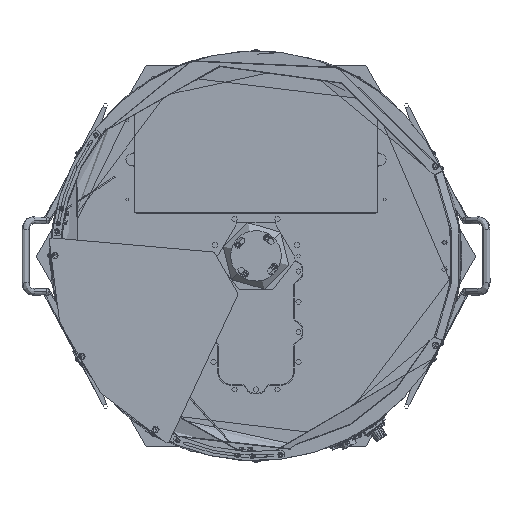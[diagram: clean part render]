
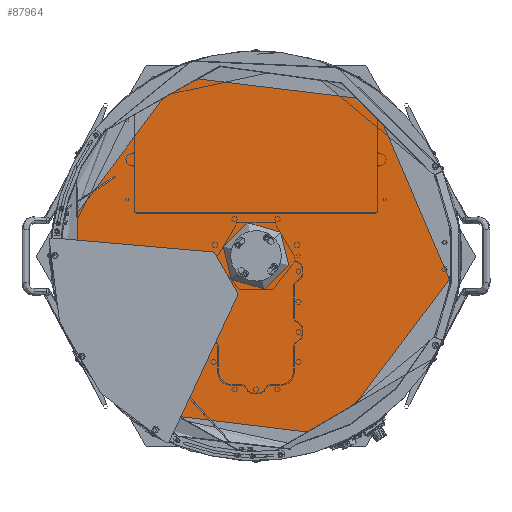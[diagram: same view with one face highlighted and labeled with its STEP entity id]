
A CAD part, top view. The second image highlights one B-rep face of the part: STEP entity #87964.
In plain terms, the highlighted planar face has unit normal (0, 0, 1) as drawn and (0, 0, -1) by its records, which use the part's own axes.
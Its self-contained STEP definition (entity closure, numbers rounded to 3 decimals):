
#2241 = DIRECTION ( 'NONE',  ( 0., 0., 1. ) ) ;
#8683 = EDGE_CURVE ( 'NONE', #47650, #276169, #73018, .T. ) ;
#11901 = CARTESIAN_POINT ( 'NONE',  ( -328., 0., 0. ) ) ;
#21128 = CIRCLE ( 'NONE', #264972, 42.6 ) ;
#22755 = EDGE_CURVE ( 'NONE', #272702, #26678, #21128, .T. ) ;
#26678 = VERTEX_POINT ( 'NONE', #71757 ) ;
#27066 = DIRECTION ( 'NONE',  ( 1., 0., 0. ) ) ;
#40331 = DIRECTION ( 'NONE',  ( 1., 0., 0. ) ) ;
#40373 = CIRCLE ( 'NONE', #181152, 42.6 ) ;
#46185 = FACE_OUTER_BOUND ( 'NONE', #161077, .T. ) ;
#47650 = VERTEX_POINT ( 'NONE', #186359 ) ;
#51130 = EDGE_LOOP ( 'NONE', ( #148057, #225762 ) ) ;
#71212 = DIRECTION ( 'NONE',  ( 1., 0., 0. ) ) ;
#71757 = CARTESIAN_POINT ( 'NONE',  ( -42.6, 0., 0. ) ) ;
#73018 = CIRCLE ( 'NONE', #162034, 328. ) ;
#83435 = CARTESIAN_POINT ( 'NONE',  ( 42.6, 0., 0. ) ) ;
#87964 = ADVANCED_FACE ( 'NONE', ( #250194, #46185 ), #203187, .F. ) ;
#103575 = DIRECTION ( 'NONE',  ( 0., 0., 1. ) ) ;
#128315 = ORIENTED_EDGE ( 'NONE', *, *, #8683, .F. ) ;
#132492 = AXIS2_PLACEMENT_3D ( 'NONE', #182611, #2241, #27066 ) ;
#145417 = DIRECTION ( 'NONE',  ( 0., 0., 1. ) ) ;
#145732 = CIRCLE ( 'NONE', #258380, 328. ) ;
#146358 = ORIENTED_EDGE ( 'NONE', *, *, #183101, .F. ) ;
#148057 = ORIENTED_EDGE ( 'NONE', *, *, #260373, .T. ) ;
#150498 = CARTESIAN_POINT ( 'NONE',  ( 0., 0., 0. ) ) ;
#161077 = EDGE_LOOP ( 'NONE', ( #146358, #128315 ) ) ;
#162034 = AXIS2_PLACEMENT_3D ( 'NONE', #242886, #264880, #40331 ) ;
#181152 = AXIS2_PLACEMENT_3D ( 'NONE', #213010, #145417, #235086 ) ;
#182611 = CARTESIAN_POINT ( 'NONE',  ( 0., 0., 0. ) ) ;
#183101 = EDGE_CURVE ( 'NONE', #276169, #47650, #145732, .T. ) ;
#184203 = CARTESIAN_POINT ( 'NONE',  ( 0., 0., 0. ) ) ;
#186359 = CARTESIAN_POINT ( 'NONE',  ( 328., 0., 0. ) ) ;
#203187 = PLANE ( 'NONE',  #132492 ) ;
#206216 = DIRECTION ( 'NONE',  ( 0., 0., 1. ) ) ;
#213010 = CARTESIAN_POINT ( 'NONE',  ( 0., 0., 0. ) ) ;
#225762 = ORIENTED_EDGE ( 'NONE', *, *, #22755, .T. ) ;
#235086 = DIRECTION ( 'NONE',  ( 1., 0., 0. ) ) ;
#242886 = CARTESIAN_POINT ( 'NONE',  ( 0., 0., 0. ) ) ;
#250194 = FACE_BOUND ( 'NONE', #51130, .T. ) ;
#258380 = AXIS2_PLACEMENT_3D ( 'NONE', #150498, #103575, #287103 ) ;
#260373 = EDGE_CURVE ( 'NONE', #26678, #272702, #40373, .T. ) ;
#264880 = DIRECTION ( 'NONE',  ( 0., 0., 1. ) ) ;
#264972 = AXIS2_PLACEMENT_3D ( 'NONE', #184203, #206216, #71212 ) ;
#272702 = VERTEX_POINT ( 'NONE', #83435 ) ;
#276169 = VERTEX_POINT ( 'NONE', #11901 ) ;
#287103 = DIRECTION ( 'NONE',  ( 1., 0., 0. ) ) ;
